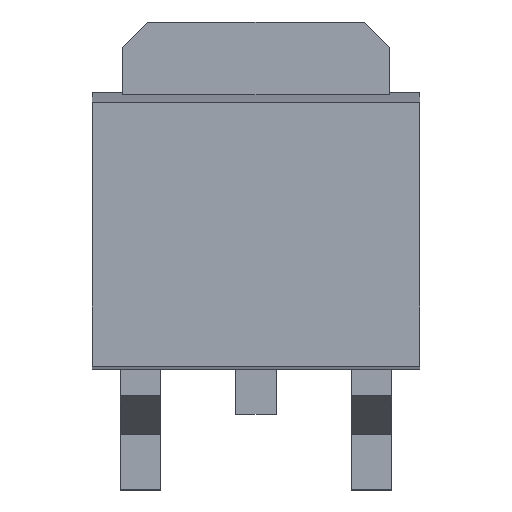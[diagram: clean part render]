
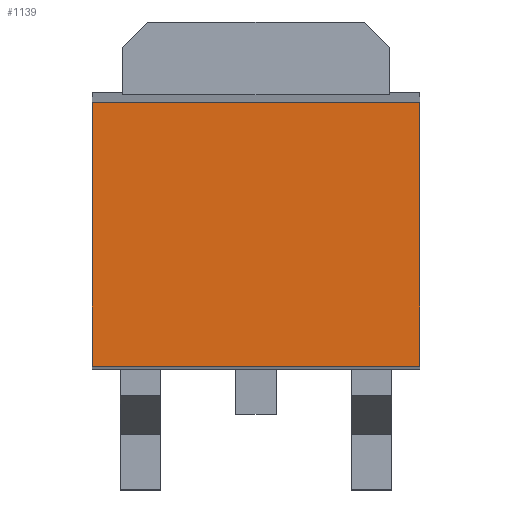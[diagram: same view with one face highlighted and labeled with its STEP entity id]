
A CAD part, top view. The second image highlights one B-rep face of the part: STEP entity #1139.
In plain terms, the highlighted planar face has unit normal (0, 0, 1).
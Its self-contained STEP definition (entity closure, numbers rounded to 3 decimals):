
#33 = EDGE_CURVE ( 'NONE', #690, #1319, #70, .T. ) ;
#40 = CARTESIAN_POINT ( 'NONE',  ( 0., 0., 2.3 ) ) ;
#70 = LINE ( 'NONE', #505, #932 ) ;
#86 = DIRECTION ( 'NONE',  ( 1., 0., 0. ) ) ;
#159 = VECTOR ( 'NONE', #867, 1000. ) ;
#337 = ORIENTED_EDGE ( 'NONE', *, *, #1187, .T. ) ;
#399 = VERTEX_POINT ( 'NONE', #1146 ) ;
#406 = ORIENTED_EDGE ( 'NONE', *, *, #33, .F. ) ;
#459 = VERTEX_POINT ( 'NONE', #820 ) ;
#473 = DIRECTION ( 'NONE',  ( 0., 0., 1. ) ) ;
#505 = CARTESIAN_POINT ( 'NONE',  ( -3.25, 2.549, 2.3 ) ) ;
#581 = FACE_OUTER_BOUND ( 'NONE', #810, .T. ) ;
#667 = DIRECTION ( 'NONE',  ( 0., -1., 0. ) ) ;
#672 = CARTESIAN_POINT ( 'NONE',  ( -3.25, 2.75, 2.3 ) ) ;
#690 = VERTEX_POINT ( 'NONE', #959 ) ;
#714 = DIRECTION ( 'NONE',  ( 0., 1., 0. ) ) ;
#721 = EDGE_CURVE ( 'NONE', #399, #459, #964, .T. ) ;
#723 = LINE ( 'NONE', #1277, #1089 ) ;
#760 = EDGE_CURVE ( 'NONE', #690, #399, #1317, .T. ) ;
#780 = CARTESIAN_POINT ( 'NONE',  ( -3.25, -2.693, 2.3 ) ) ;
#810 = EDGE_LOOP ( 'NONE', ( #1228, #1001, #337, #406 ) ) ;
#820 = CARTESIAN_POINT ( 'NONE',  ( 3.25, -2.693, 2.3 ) ) ;
#867 = DIRECTION ( 'NONE',  ( 1., 0., 0. ) ) ;
#897 = PLANE ( 'NONE',  #1357 ) ;
#904 = DIRECTION ( 'NONE',  ( 1., 0., 0. ) ) ;
#932 = VECTOR ( 'NONE', #86, 1000. ) ;
#959 = CARTESIAN_POINT ( 'NONE',  ( -3.25, 2.549, 2.3 ) ) ;
#964 = LINE ( 'NONE', #780, #159 ) ;
#1001 = ORIENTED_EDGE ( 'NONE', *, *, #721, .T. ) ;
#1089 = VECTOR ( 'NONE', #714, 1000. ) ;
#1130 = VECTOR ( 'NONE', #667, 1000. ) ;
#1139 = ADVANCED_FACE ( 'NONE', ( #581 ), #897, .T. ) ;
#1146 = CARTESIAN_POINT ( 'NONE',  ( -3.25, -2.693, 2.3 ) ) ;
#1187 = EDGE_CURVE ( 'NONE', #459, #1319, #723, .T. ) ;
#1228 = ORIENTED_EDGE ( 'NONE', *, *, #760, .T. ) ;
#1277 = CARTESIAN_POINT ( 'NONE',  ( 3.25, 2.75, 2.3 ) ) ;
#1291 = CARTESIAN_POINT ( 'NONE',  ( 3.25, 2.549, 2.3 ) ) ;
#1317 = LINE ( 'NONE', #672, #1130 ) ;
#1319 = VERTEX_POINT ( 'NONE', #1291 ) ;
#1357 = AXIS2_PLACEMENT_3D ( 'NONE', #40, #473, #904 ) ;
